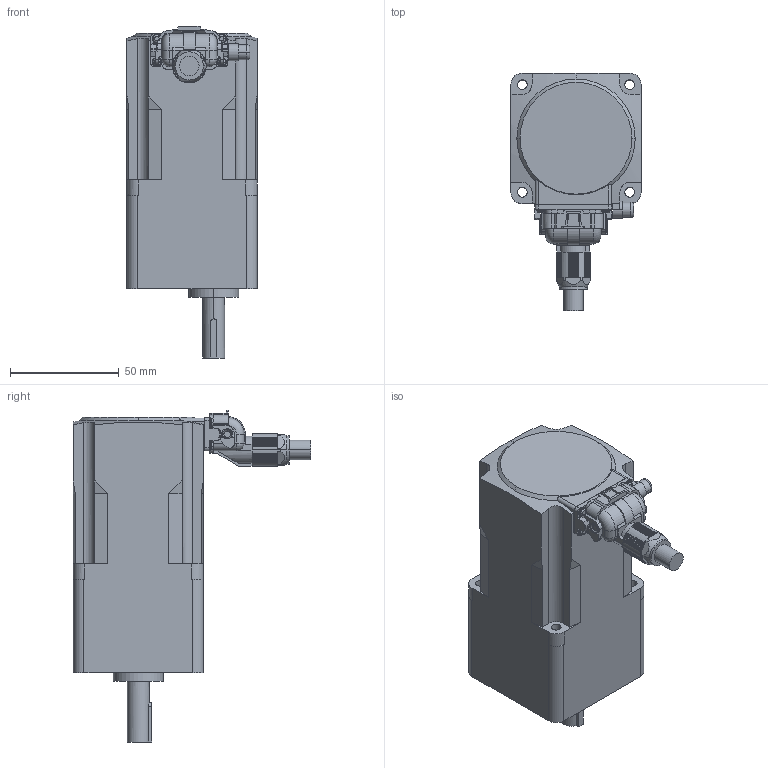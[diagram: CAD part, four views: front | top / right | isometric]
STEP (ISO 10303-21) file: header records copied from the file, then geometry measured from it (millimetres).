
FILE_DESCRIPTION (( 'STEP AP203' ), '1' );
FILE_NAME ('B1553L_V.step', '2025-07-07T03:57:06', ( '' ), ( '' ), 'SwSTEP 2.0', 'SolidWorks 2023', '' );
FILE_SCHEMA (( 'CONFIG_CONTROL_DESIGN' ));
Length unit declared in the file: millimetre
Products named in the file (1): B1553L_V
Bounding box: 60 x 109.5 x 152.9 mm (x, y, z)
Volume: 407311.2 mm3; surface area: 42539.7 mm2
Topology: 1 solids, 1 shells, 585 faces, 1641 edges, 1070 vertices
Faces by surface type: plane 338, cylinder 219, cone 12, torus 12, sphere 4
Entity records: 19272 total; most frequent: CARTESIAN_POINT 3779, ORIENTED_EDGE 3274, DIRECTION 3261, EDGE_CURVE 1637, AXIS2_PLACEMENT_3D 1102, VERTEX_POINT 1070, LINE 1057, VECTOR 1057
